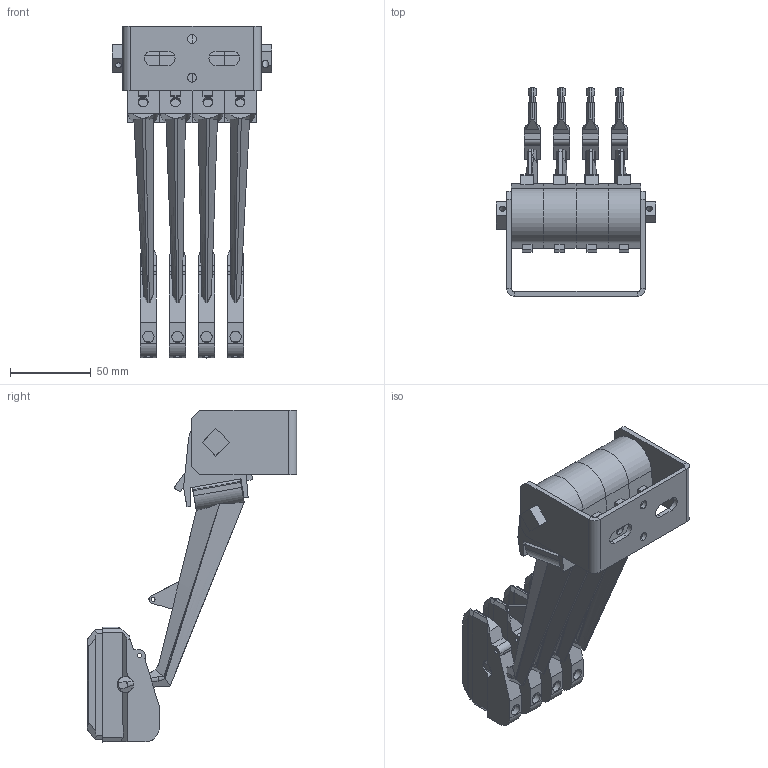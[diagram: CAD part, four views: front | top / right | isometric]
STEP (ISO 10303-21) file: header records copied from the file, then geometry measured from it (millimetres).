
FILE_DESCRIPTION (( 'STEP AP214' ), '1' );
FILE_NAME ('083103-040023.STEP', '2013-01-17T08:32:23', ( '' ), ( '' ), 'SwSTEP 2.0', 'SolidWorks 2012', '' );
FILE_SCHEMA (( 'AUTOMOTIVE_DESIGN' ));
Length unit declared in the file: millimetre
Products named in the file (14): 083102_PH -3; 083102_PH -1; 083102_PH +1; 08-k154-0178_PH 08-k154-0178; 08-L005-0113_PH 08-l005-0113; 083102_+3; 08-k154-0089; 08-k154-0178_PE 08-k154-0179; 08-A150-0034; 08-L005-0113_PE 08-l005-0061; 081050_20x4; Achse 081050_4 polig , 08-A002-0165; Buegel 081050_4 polig , 08-B004-0065; 083103-040023
Assembly tree (23 placements, depth 3):
  083103-040023
    081050_20x4
      Buegel 081050_4 polig , 08-B004-0065
      Achse 081050_4 polig , 08-A002-0165
    083102_+3
      08-L005-0113_PE 08-l005-0061
      08-A150-0034
      08-k154-0178_PE 08-k154-0179
      08-k154-0089
    083102_PH +1
      08-L005-0113_PH 08-l005-0113
      08-A150-0034
      08-k154-0178_PH 08-k154-0178
      08-k154-0089
    083102_PH -1
      08-L005-0113_PH 08-l005-0113
      08-A150-0034
      08-k154-0178_PH 08-k154-0178
      08-k154-0089
    083102_PH -3
      08-L005-0113_PH 08-l005-0113
      08-A150-0034
      08-k154-0178_PH 08-k154-0178
      08-k154-0089
Bounding box: 99 x 129.5 x 205.51 mm (x, y, z)
Volume: 290481.4 mm3; surface area: 117840.9 mm2
Topology: 18 solids, 22 shells, 690 faces, 1841 edges, 1210 vertices
Faces by surface type: plane 458, cylinder 172, bspline 40, torus 12, sphere 8
Entity records: 10472 total; most frequent: CARTESIAN_POINT 2598, ORIENTED_EDGE 1558, DIRECTION 1476, EDGE_CURVE 779, VECTOR 564, LINE 564, VERTEX_POINT 511, AXIS2_PLACEMENT_3D 456
